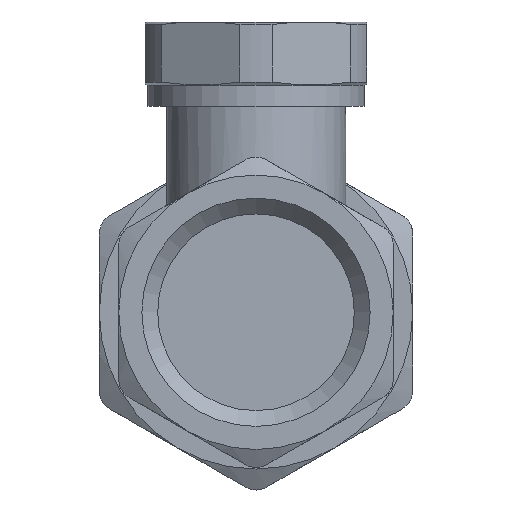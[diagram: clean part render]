
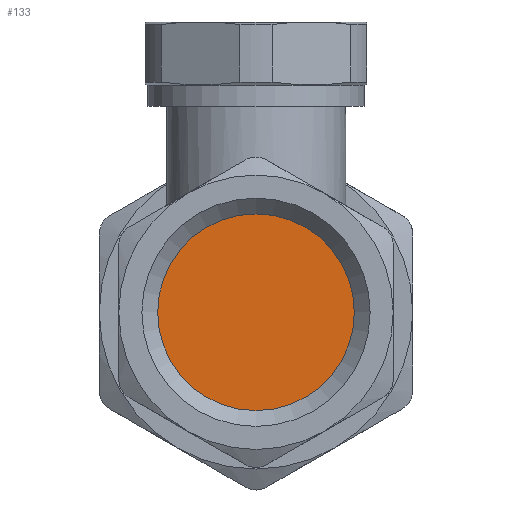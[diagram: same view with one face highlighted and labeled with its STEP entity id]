
A CAD part, front view. The second image highlights one B-rep face of the part: STEP entity #133.
In plain terms, the highlighted planar face has unit normal (0, -1, 0).
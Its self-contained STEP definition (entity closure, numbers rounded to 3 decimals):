
#133=ADVANCED_FACE('',(#1075),#1077,.T.);
#1075=FACE_BOUND('',#1076,.T.);
#1076=EDGE_LOOP('',(#1554));
#1077=PLANE('',#1078);
#1078=AXIS2_PLACEMENT_3D('',#1079,#1080,#1081);
#1079=CARTESIAN_POINT('',(0.,11.,0.));
#1080=DIRECTION('',(0.,-1.,0.));
#1081=DIRECTION('',(1.,0.,0.));
#1554=ORIENTED_EDGE('',*,*,#1780,.T.);
#1780=EDGE_CURVE('',#2150,#2150,#2151,.T.);
#2150=VERTEX_POINT('',#5526);
#2151=CIRCLE('',#5527,9.316);
#5526=CARTESIAN_POINT('',(9.316,11.,0.));
#5527=AXIS2_PLACEMENT_3D('',#5528,#5529,#5530);
#5528=CARTESIAN_POINT('',(0.,11.,0.));
#5529=DIRECTION('',(0.,-1.,0.));
#5530=DIRECTION('',(1.,0.,0.));
